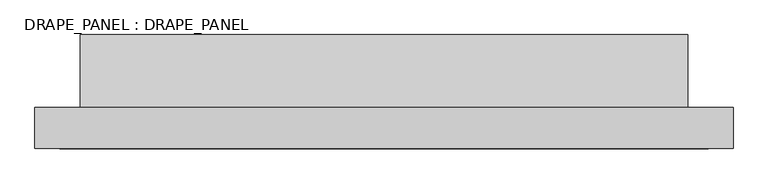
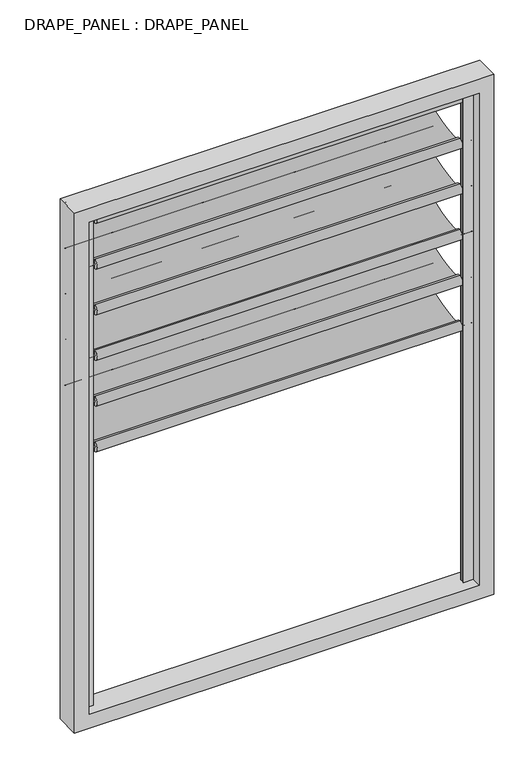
"""IFC4 building model written with IfcOpenShell, lengths in millimetres: plate geometry, DRAPE_PANEL : DRAPE_PANEL."""

from ifc_helpers import new_model, si_unit, point, frame, origin, place, context, project, spatial, polyline, circle_curve, ellipse_curve, trimmed, outline, extrude, source, transform, mapped, element, save
from ifc_brep_helpers import plane_surface, cylinder_surface, extruded_surface, advanced_brep


def drape_panel_drape_panel_54859ce1(model_context):
    return source(origin(), model_context, "Body", "SolidModel", [
        advanced_brep(
        [(-790.0, 0.0, 1551.5019792), (-790.0, 0.0, 1556.5019792), (-790.0, 0.0, 1546.5019792), (790.0, 0.0, 1546.5019792), (790.0, 0.0, 1556.5019792), (790.0, 0.0, 1551.5019792), (740.0, 0.0, 1546.5019792), (740.0, 0.0, 1556.5019792), (740.0, 0.0, 1531.5019792), (740.0, 0.0, 1571.5019792), (-740.0, 0.0, 1531.5019792), (-740.0, 0.0, 1571.5019792), (-740.0, 0.0, 1546.5019792), (-740.0, 0.0, 1556.5019792)],
        [
            (0, 1),
            (1, 2, circle_curve(frame((-790.0, 0.0, 1551.5019792), z_axis=(-1.0, 0.0, 0.0), x_axis=(0.0, 0.0, 1.0)), 5.0)),
            (2, 0),
            (2, 1, circle_curve(frame((-790.0, 0.0, 1551.5019792), z_axis=(-1.0, 0.0, 0.0), x_axis=(0.0, 0.0, 1.0)), 5.0)),
            (3, 4, circle_curve(frame((790.0, 0.0, 1551.5019792), z_axis=(1.0, 0.0, 0.0), x_axis=(0.0, 0.0, 1.0)), 5.0)),
            (4, 5),
            (5, 3),
            (4, 3, circle_curve(frame((790.0, 0.0, 1551.5019792), z_axis=(1.0, 0.0, 0.0), x_axis=(0.0, 0.0, 1.0)), 5.0)),
            (6, 7, circle_curve(frame((740.0, 0.0, 1551.5019792), z_axis=(1.0, 0.0, 0.0), x_axis=(0.0, 0.0, 1.0)), 5.0)),
            (7, 4),
            (3, 6),
            (7, 6, circle_curve(frame((740.0, 0.0, 1551.5019792), z_axis=(1.0, 0.0, 0.0), x_axis=(0.0, 0.0, 1.0)), 5.0)),
            (8, 9, circle_curve(frame((740.0, 0.0, 1551.5019792), z_axis=(1.0, 0.0, 0.0), x_axis=(0.0, 0.0, 1.0)), 20.0)),
            (9, 7),
            (6, 8),
            (9, 8, circle_curve(frame((740.0, 0.0, 1551.5019792), z_axis=(1.0, 0.0, 0.0), x_axis=(0.0, 0.0, 1.0)), 20.0)),
            (10, 11, circle_curve(frame((-740.0, 0.0, 1551.5019792), z_axis=(1.0, 0.0, 0.0), x_axis=(0.0, 0.0, 1.0)), 20.0)),
            (11, 9),
            (8, 10),
            (11, 10, circle_curve(frame((-740.0, 0.0, 1551.5019792), z_axis=(1.0, 0.0, 0.0), x_axis=(0.0, 0.0, 1.0)), 20.0)),
            (12, 13, circle_curve(frame((-740.0, 0.0, 1551.5019792), z_axis=(1.0, 0.0, 0.0), x_axis=(0.0, 0.0, 1.0)), 5.0)),
            (13, 11),
            (10, 12),
            (13, 12, circle_curve(frame((-740.0, 0.0, 1551.5019792), z_axis=(1.0, 0.0, 0.0), x_axis=(0.0, 0.0, 1.0)), 5.0)),
            (1, 13),
            (12, 2),
        ],
        [
            plane_surface(frame((-790.0, 0.0, 1551.5019792), z_axis=(-1.0, 0.0, 0.0), x_axis=(0.0, 0.0, 1.0))),
            plane_surface(frame((790.0, 0.0, 1551.5019792), z_axis=(1.0, 0.0, 0.0), x_axis=(0.0, 0.0, 1.0))),
            cylinder_surface(frame((6238.8752301, 0.0, 1551.5019792), z_axis=(-1.0, 0.0, 0.0), x_axis=(0.0, 0.0, 1.0)), 5.0),
            plane_surface(frame((740.0, 0.0, 1551.5019792), z_axis=(1.0, 0.0, 0.0), x_axis=(0.0, 0.0, 1.0))),
            cylinder_surface(frame((6238.8752301, 0.0, 1551.5019792), z_axis=(-1.0, 0.0, 0.0), x_axis=(0.0, 0.0, 1.0)), 20.0),
            plane_surface(frame((-740.0, 0.0, 1551.5019792), z_axis=(-1.0, 0.0, 0.0), x_axis=(0.0, 0.0, 1.0))),
        ],
        [
            (0, [[1, 2, 3]]),
            (0, [[-3, 4, -1]]),
            (1, [[5, 6, 7]]),
            (1, [[8, -7, -6]]),
            (2, [[9, 10, -5, 11]]),
            (2, [[12, -11, -8, -10]]),
            (3, [[13, 14, -9, 15]]),
            (3, [[16, -15, -12, -14]]),
            (4, [[17, 18, -13, 19]]),
            (4, [[20, -19, -16, -18]]),
            (5, [[21, 22, -17, 23]]),
            (5, [[24, -23, -20, -22]]),
            (2, [[-2, 25, -21, 26]]),
            (2, [[-4, -26, -24, -25]]),
        ],
    ),
        advanced_brep(
        [(740.0, 0.0, 1551.5019792), (740.0, 0.0, 1548.5019792), (740.0, 0.0, 1358.7509896), (740.0, 0.0, 1355.7509896), (-740.0, 0.0, 1551.5019792), (-740.0, 0.0, 1355.7509896), (-740.0, 0.0, 1358.7509896), (-740.0, 0.0, 1548.5019792)],
        [
            (0, 1),
            (1, 2, ellipse_curve(frame((740.0, 0.0, 1453.6264844), z_axis=(-1.0, 0.0, 0.0), x_axis=(0.0, -1.0, 0.0)), 224.6534293, 94.8754948)),
            (2, 3),
            (3, 0, ellipse_curve(frame((740.0, 0.0, 1453.6264844), z_axis=(1.0, 0.0, 0.0), x_axis=(0.0, 1.0, 0.0)), 227.6534293, 97.8754948)),
            (4, 5, ellipse_curve(frame((-740.0, 0.0, 1453.6264844), z_axis=(-1.0, 0.0, 0.0), x_axis=(0.0, 0.0, -1.0)), 97.8754948, 227.6534293)),
            (5, 6),
            (6, 7, ellipse_curve(frame((-740.0, 0.0, 1453.6264844), z_axis=(1.0, 0.0, 0.0), x_axis=(0.0, 0.0, -1.0)), 94.8754948, 224.6534293)),
            (7, 4),
            (0, 4),
            (7, 1),
            (6, 2),
            (5, 3),
        ],
        [
            plane_surface(frame((740.0, 0.0, 1551.5019792), z_axis=(1.0, 0.0, 0.0), x_axis=(0.0, -1.769368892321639e-12, -1.0))),
            plane_surface(frame((-740.0, 0.0, 1551.5019792), z_axis=(-1.0, 0.0, 0.0), x_axis=(0.0, 1.769368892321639e-12, 1.0))),
            plane_surface(frame((740.0, 0.0, 1551.5019792), z_axis=(0.0, -1.0, 1.769368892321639e-12), x_axis=(-1.0, 0.0, 0.0))),
            extruded_surface(trimmed(ellipse_curve(frame((-2220.0, 0.0, 1453.6264844), z_axis=(-1.0, 0.0, 0.0), x_axis=(0.0, 0.0, -1.0)), 94.8754948, 224.6534293), [point((-2220.0, 0.0, 1548.5019792))], [point((-2220.0, 0.0, 1358.7509896))], True, "CARTESIAN"), (1480.0, 0.0, 0.0), 1480.0),
            plane_surface(frame((740.0, 0.0, 1358.7509896), z_axis=(0.0, -1.0, 0.0), x_axis=(-1.0, 0.0, 0.0))),
            extruded_surface(trimmed(ellipse_curve(frame((-2220.0, 0.0, 1453.6264844), z_axis=(1.0, 0.0, 0.0), x_axis=(0.0, 0.0, -1.0)), 97.8754948, 227.6534293), [point((-2220.0, 0.0, 1355.7509896))], [point((-2220.0, 0.0, 1551.5019792))], True, "CARTESIAN"), (1480.0, 0.0, 0.0), 1480.0),
        ],
        [
            (0, [[1, 2, 3, 4]]),
            (1, [[5, 6, 7, 8]]),
            (2, [[-1, 9, -8, 10]]),
            (3, [[-2, -10, -7, 11]]),
            (4, [[-3, -11, -6, 12]]),
            (5, [[-4, -12, -5, -9]]),
        ],
    ),
        advanced_brep(
        [(-790.0, 0.0, 1747.2529688), (-790.0, 0.0, 1752.2529688), (-790.0, 0.0, 1742.2529688), (790.0, 0.0, 1742.2529688), (790.0, 0.0, 1752.2529688), (790.0, 0.0, 1747.2529688), (740.0, 0.0, 1742.2529688), (740.0, 0.0, 1752.2529688), (740.0, 0.0, 1727.2529688), (740.0, 0.0, 1767.2529688), (-740.0, 0.0, 1727.2529688), (-740.0, 0.0, 1767.2529688), (-740.0, 0.0, 1742.2529688), (-740.0, 0.0, 1752.2529688)],
        [
            (0, 1),
            (1, 2, circle_curve(frame((-790.0, 0.0, 1747.2529688), z_axis=(-1.0, 0.0, 0.0), x_axis=(0.0, 0.0, 1.0)), 5.0)),
            (2, 0),
            (2, 1, circle_curve(frame((-790.0, 0.0, 1747.2529688), z_axis=(-1.0, 0.0, 0.0), x_axis=(0.0, 0.0, 1.0)), 5.0)),
            (3, 4, circle_curve(frame((790.0, 0.0, 1747.2529688), z_axis=(1.0, 0.0, 0.0), x_axis=(0.0, 0.0, 1.0)), 5.0)),
            (4, 5),
            (5, 3),
            (4, 3, circle_curve(frame((790.0, 0.0, 1747.2529688), z_axis=(1.0, 0.0, 0.0), x_axis=(0.0, 0.0, 1.0)), 5.0)),
            (6, 7, circle_curve(frame((740.0, 0.0, 1747.2529688), z_axis=(1.0, 0.0, 0.0), x_axis=(0.0, 0.0, 1.0)), 5.0)),
            (7, 4),
            (3, 6),
            (7, 6, circle_curve(frame((740.0, 0.0, 1747.2529688), z_axis=(1.0, 0.0, 0.0), x_axis=(0.0, 0.0, 1.0)), 5.0)),
            (8, 9, circle_curve(frame((740.0, 0.0, 1747.2529688), z_axis=(1.0, 0.0, 0.0), x_axis=(0.0, 0.0, 1.0)), 20.0)),
            (9, 7),
            (6, 8),
            (9, 8, circle_curve(frame((740.0, 0.0, 1747.2529688), z_axis=(1.0, 0.0, 0.0), x_axis=(0.0, 0.0, 1.0)), 20.0)),
            (10, 11, circle_curve(frame((-740.0, 0.0, 1747.2529688), z_axis=(1.0, 0.0, 0.0), x_axis=(0.0, 0.0, 1.0)), 20.0)),
            (11, 9),
            (8, 10),
            (11, 10, circle_curve(frame((-740.0, 0.0, 1747.2529688), z_axis=(1.0, 0.0, 0.0), x_axis=(0.0, 0.0, 1.0)), 20.0)),
            (12, 13, circle_curve(frame((-740.0, 0.0, 1747.2529688), z_axis=(1.0, 0.0, 0.0), x_axis=(0.0, 0.0, 1.0)), 5.0)),
            (13, 11),
            (10, 12),
            (13, 12, circle_curve(frame((-740.0, 0.0, 1747.2529688), z_axis=(1.0, 0.0, 0.0), x_axis=(0.0, 0.0, 1.0)), 5.0)),
            (1, 13),
            (12, 2),
        ],
        [
            plane_surface(frame((-790.0, 0.0, 1747.2529688), z_axis=(-1.0, 0.0, 0.0), x_axis=(0.0, 0.0, 1.0))),
            plane_surface(frame((790.0, 0.0, 1747.2529688), z_axis=(1.0, 0.0, 0.0), x_axis=(0.0, 0.0, 1.0))),
            cylinder_surface(frame((6238.8752301, 0.0, 1747.2529688), z_axis=(-1.0, 0.0, 0.0), x_axis=(0.0, 0.0, 1.0)), 5.0),
            plane_surface(frame((740.0, 0.0, 1747.2529688), z_axis=(1.0, 0.0, 0.0), x_axis=(0.0, 0.0, 1.0))),
            cylinder_surface(frame((6238.8752301, 0.0, 1747.2529688), z_axis=(-1.0, 0.0, 0.0), x_axis=(0.0, 0.0, 1.0)), 20.0),
            plane_surface(frame((-740.0, 0.0, 1747.2529688), z_axis=(-1.0, 0.0, 0.0), x_axis=(0.0, 0.0, 1.0))),
        ],
        [
            (0, [[1, 2, 3]]),
            (0, [[-3, 4, -1]]),
            (1, [[5, 6, 7]]),
            (1, [[8, -7, -6]]),
            (2, [[9, 10, -5, 11]]),
            (2, [[12, -11, -8, -10]]),
            (3, [[13, 14, -9, 15]]),
            (3, [[16, -15, -12, -14]]),
            (4, [[17, 18, -13, 19]]),
            (4, [[20, -19, -16, -18]]),
            (5, [[21, 22, -17, 23]]),
            (5, [[24, -23, -20, -22]]),
            (2, [[-2, 25, -21, 26]]),
            (2, [[-4, -26, -24, -25]]),
        ],
    ),
        advanced_brep(
        [(740.0, 0.0, 1747.2529688), (740.0, 0.0, 1744.2529688), (740.0, 0.0, 1554.5019792), (740.0, 0.0, 1551.5019792), (-740.0, 0.0, 1747.2529688), (-740.0, 0.0, 1551.5019792), (-740.0, 0.0, 1554.5019792), (-740.0, 0.0, 1744.2529688)],
        [
            (0, 1),
            (1, 2, ellipse_curve(frame((740.0, 0.0, 1649.377474), z_axis=(-1.0, 0.0, 0.0), x_axis=(0.0, -1.0, 0.0)), 224.6534293, 94.8754948)),
            (2, 3),
            (3, 0, ellipse_curve(frame((740.0, 0.0, 1649.377474), z_axis=(1.0, 0.0, 0.0), x_axis=(0.0, 1.0, 0.0)), 227.6534293, 97.8754948)),
            (4, 5, ellipse_curve(frame((-740.0, 0.0, 1649.377474), z_axis=(-1.0, 0.0, 0.0), x_axis=(0.0, 0.0, -1.0)), 97.8754948, 227.6534293)),
            (5, 6),
            (6, 7, ellipse_curve(frame((-740.0, 0.0, 1649.377474), z_axis=(1.0, 0.0, 0.0), x_axis=(0.0, 0.0, -1.0)), 94.8754948, 224.6534293)),
            (7, 4),
            (0, 4),
            (7, 1),
            (6, 2),
            (5, 3),
        ],
        [
            plane_surface(frame((740.0, 0.0, 1747.2529688), z_axis=(1.0, 0.0, 0.0), x_axis=(0.0, -1.769368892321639e-12, -1.0))),
            plane_surface(frame((-740.0, 0.0, 1747.2529688), z_axis=(-1.0, 0.0, 0.0), x_axis=(0.0, 1.769368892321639e-12, 1.0))),
            plane_surface(frame((740.0, 0.0, 1747.2529688), z_axis=(0.0, -1.0, 1.769368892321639e-12), x_axis=(-1.0, 0.0, 0.0))),
            extruded_surface(trimmed(ellipse_curve(frame((-2220.0, 0.0, 1649.377474), z_axis=(-1.0, 0.0, 0.0), x_axis=(0.0, 0.0, -1.0)), 94.8754948, 224.6534293), [point((-2220.0, 0.0, 1744.2529688))], [point((-2220.0, 0.0, 1554.5019792))], True, "CARTESIAN"), (1480.0, 0.0, 0.0), 1480.0),
            plane_surface(frame((740.0, 0.0, 1554.5019792), z_axis=(0.0, -1.0, 0.0), x_axis=(-1.0, 0.0, 0.0))),
            extruded_surface(trimmed(ellipse_curve(frame((-2220.0, 0.0, 1649.377474), z_axis=(1.0, 0.0, 0.0), x_axis=(0.0, 0.0, -1.0)), 97.8754948, 227.6534293), [point((-2220.0, 0.0, 1551.5019792))], [point((-2220.0, 0.0, 1747.2529688))], True, "CARTESIAN"), (1480.0, 0.0, 0.0), 1480.0),
        ],
        [
            (0, [[1, 2, 3, 4]]),
            (1, [[5, 6, 7, 8]]),
            (2, [[-1, 9, -8, 10]]),
            (3, [[-2, -10, -7, 11]]),
            (4, [[-3, -11, -6, 12]]),
            (5, [[-4, -12, -5, -9]]),
        ],
    ),
        advanced_brep(
        [(-790.0, 0.0, 1943.0039583), (-790.0, 0.0, 1948.0039583), (-790.0, 0.0, 1938.0039583), (790.0, 0.0, 1938.0039583), (790.0, 0.0, 1948.0039583), (790.0, 0.0, 1943.0039583), (740.0, 0.0, 1938.0039583), (740.0, 0.0, 1948.0039583), (740.0, 0.0, 1923.0039583), (740.0, 0.0, 1963.0039583), (-740.0, 0.0, 1923.0039583), (-740.0, 0.0, 1963.0039583), (-740.0, 0.0, 1938.0039583), (-740.0, 0.0, 1948.0039583)],
        [
            (0, 1),
            (1, 2, circle_curve(frame((-790.0, 0.0, 1943.0039583), z_axis=(-1.0, 0.0, 0.0), x_axis=(0.0, 0.0, 1.0)), 5.0)),
            (2, 0),
            (2, 1, circle_curve(frame((-790.0, 0.0, 1943.0039583), z_axis=(-1.0, 0.0, 0.0), x_axis=(0.0, 0.0, 1.0)), 5.0)),
            (3, 4, circle_curve(frame((790.0, 0.0, 1943.0039583), z_axis=(1.0, 0.0, 0.0), x_axis=(0.0, 0.0, 1.0)), 5.0)),
            (4, 5),
            (5, 3),
            (4, 3, circle_curve(frame((790.0, 0.0, 1943.0039583), z_axis=(1.0, 0.0, 0.0), x_axis=(0.0, 0.0, 1.0)), 5.0)),
            (6, 7, circle_curve(frame((740.0, 0.0, 1943.0039583), z_axis=(1.0, 0.0, 0.0), x_axis=(0.0, 0.0, 1.0)), 5.0)),
            (7, 4),
            (3, 6),
            (7, 6, circle_curve(frame((740.0, 0.0, 1943.0039583), z_axis=(1.0, 0.0, 0.0), x_axis=(0.0, 0.0, 1.0)), 5.0)),
            (8, 9, circle_curve(frame((740.0, 0.0, 1943.0039583), z_axis=(1.0, 0.0, 0.0), x_axis=(0.0, 0.0, 1.0)), 20.0)),
            (9, 7),
            (6, 8),
            (9, 8, circle_curve(frame((740.0, 0.0, 1943.0039583), z_axis=(1.0, 0.0, 0.0), x_axis=(0.0, 0.0, 1.0)), 20.0)),
            (10, 11, circle_curve(frame((-740.0, 0.0, 1943.0039583), z_axis=(1.0, 0.0, 0.0), x_axis=(0.0, 0.0, 1.0)), 20.0)),
            (11, 9),
            (8, 10),
            (11, 10, circle_curve(frame((-740.0, 0.0, 1943.0039583), z_axis=(1.0, 0.0, 0.0), x_axis=(0.0, 0.0, 1.0)), 20.0)),
            (12, 13, circle_curve(frame((-740.0, 0.0, 1943.0039583), z_axis=(1.0, 0.0, 0.0), x_axis=(0.0, 0.0, 1.0)), 5.0)),
            (13, 11),
            (10, 12),
            (13, 12, circle_curve(frame((-740.0, 0.0, 1943.0039583), z_axis=(1.0, 0.0, 0.0), x_axis=(0.0, 0.0, 1.0)), 5.0)),
            (1, 13),
            (12, 2),
        ],
        [
            plane_surface(frame((-790.0, 0.0, 1943.0039583), z_axis=(-1.0, 0.0, 0.0), x_axis=(0.0, 0.0, 1.0))),
            plane_surface(frame((790.0, 0.0, 1943.0039583), z_axis=(1.0, 0.0, 0.0), x_axis=(0.0, 0.0, 1.0))),
            cylinder_surface(frame((6238.8752301, 0.0, 1943.0039583), z_axis=(-1.0, 0.0, 0.0), x_axis=(0.0, 0.0, 1.0)), 5.0),
            plane_surface(frame((740.0, 0.0, 1943.0039583), z_axis=(1.0, 0.0, 0.0), x_axis=(0.0, 0.0, 1.0))),
            cylinder_surface(frame((6238.8752301, 0.0, 1943.0039583), z_axis=(-1.0, 0.0, 0.0), x_axis=(0.0, 0.0, 1.0)), 20.0),
            plane_surface(frame((-740.0, 0.0, 1943.0039583), z_axis=(-1.0, 0.0, 0.0), x_axis=(0.0, 0.0, 1.0))),
        ],
        [
            (0, [[1, 2, 3]]),
            (0, [[-3, 4, -1]]),
            (1, [[5, 6, 7]]),
            (1, [[8, -7, -6]]),
            (2, [[9, 10, -5, 11]]),
            (2, [[12, -11, -8, -10]]),
            (3, [[13, 14, -9, 15]]),
            (3, [[16, -15, -12, -14]]),
            (4, [[17, 18, -13, 19]]),
            (4, [[20, -19, -16, -18]]),
            (5, [[21, 22, -17, 23]]),
            (5, [[24, -23, -20, -22]]),
            (2, [[-2, 25, -21, 26]]),
            (2, [[-4, -26, -24, -25]]),
        ],
    ),
        advanced_brep(
        [(740.0, 0.0, 1943.0039583), (740.0, 0.0, 1940.0039583), (740.0, 0.0, 1750.2529688), (740.0, 0.0, 1747.2529688), (-740.0, 0.0, 1943.0039583), (-740.0, 0.0, 1747.2529688), (-740.0, 0.0, 1750.2529688), (-740.0, 0.0, 1940.0039583)],
        [
            (0, 1),
            (1, 2, ellipse_curve(frame((740.0, 0.0, 1845.1284635), z_axis=(-1.0, 0.0, 0.0), x_axis=(0.0, -1.0, 0.0)), 224.6534293, 94.8754948)),
            (2, 3),
            (3, 0, ellipse_curve(frame((740.0, 0.0, 1845.1284635), z_axis=(1.0, 0.0, 0.0), x_axis=(0.0, 1.0, 0.0)), 227.6534293, 97.8754948)),
            (4, 5, ellipse_curve(frame((-740.0, 0.0, 1845.1284635), z_axis=(-1.0, 0.0, 0.0), x_axis=(0.0, 0.0, -1.0)), 97.8754948, 227.6534293)),
            (5, 6),
            (6, 7, ellipse_curve(frame((-740.0, 0.0, 1845.1284635), z_axis=(1.0, 0.0, 0.0), x_axis=(0.0, 0.0, -1.0)), 94.8754948, 224.6534293)),
            (7, 4),
            (0, 4),
            (7, 1),
            (6, 2),
            (5, 3),
        ],
        [
            plane_surface(frame((740.0, 0.0, 1943.0039583), z_axis=(1.0, 0.0, 0.0), x_axis=(0.0, -1.769368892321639e-12, -1.0))),
            plane_surface(frame((-740.0, 0.0, 1943.0039583), z_axis=(-1.0, 0.0, 0.0), x_axis=(0.0, 1.769368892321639e-12, 1.0))),
            plane_surface(frame((740.0, 0.0, 1943.0039583), z_axis=(0.0, -1.0, 1.769368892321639e-12), x_axis=(-1.0, 0.0, 0.0))),
            extruded_surface(trimmed(ellipse_curve(frame((-2220.0, 0.0, 1845.1284635), z_axis=(-1.0, 0.0, 0.0), x_axis=(0.0, 0.0, -1.0)), 94.8754948, 224.6534293), [point((-2220.0, 0.0, 1940.0039583))], [point((-2220.0, 0.0, 1750.2529687))], True, "CARTESIAN"), (1480.0, 0.0, 0.0), 1480.0),
            plane_surface(frame((740.0, 0.0, 1750.2529688), z_axis=(0.0, -1.0, 0.0), x_axis=(-1.0, 0.0, 0.0))),
            extruded_surface(trimmed(ellipse_curve(frame((-2220.0, 0.0, 1845.1284635), z_axis=(1.0, 0.0, 0.0), x_axis=(0.0, 0.0, -1.0)), 97.8754948, 227.6534293), [point((-2220.0, 0.0, 1747.2529688))], [point((-2220.0, 0.0, 1943.0039583))], True, "CARTESIAN"), (1480.0, 0.0, 0.0), 1480.0),
        ],
        [
            (0, [[1, 2, 3, 4]]),
            (1, [[5, 6, 7, 8]]),
            (2, [[-1, 9, -8, 10]]),
            (3, [[-2, -10, -7, 11]]),
            (4, [[-3, -11, -6, 12]]),
            (5, [[-4, -12, -5, -9]]),
        ],
    ),
        advanced_brep(
        [(-790.0, 0.0, 1355.7509896), (-790.0, 0.0, 1360.7509896), (-790.0, 0.0, 1350.7509896), (790.0, 0.0, 1350.7509896), (790.0, 0.0, 1360.7509896), (790.0, 0.0, 1355.7509896), (740.0, 0.0, 1350.7509896), (740.0, 0.0, 1360.7509896), (740.0, 0.0, 1335.7509896), (740.0, 0.0, 1375.7509896), (-740.0, 0.0, 1335.7509896), (-740.0, 0.0, 1375.7509896), (-740.0, 0.0, 1350.7509896), (-740.0, 0.0, 1360.7509896)],
        [
            (0, 1),
            (1, 2, circle_curve(frame((-790.0, 0.0, 1355.7509896), z_axis=(-1.0, 0.0, 0.0), x_axis=(0.0, 0.0, 1.0)), 5.0)),
            (2, 0),
            (2, 1, circle_curve(frame((-790.0, 0.0, 1355.7509896), z_axis=(-1.0, 0.0, 0.0), x_axis=(0.0, 0.0, 1.0)), 5.0)),
            (3, 4, circle_curve(frame((790.0, 0.0, 1355.7509896), z_axis=(1.0, 0.0, 0.0), x_axis=(0.0, 0.0, 1.0)), 5.0)),
            (4, 5),
            (5, 3),
            (4, 3, circle_curve(frame((790.0, 0.0, 1355.7509896), z_axis=(1.0, 0.0, 0.0), x_axis=(0.0, 0.0, 1.0)), 5.0)),
            (6, 7, circle_curve(frame((740.0, 0.0, 1355.7509896), z_axis=(1.0, 0.0, 0.0), x_axis=(0.0, 0.0, 1.0)), 5.0)),
            (7, 4),
            (3, 6),
            (7, 6, circle_curve(frame((740.0, 0.0, 1355.7509896), z_axis=(1.0, 0.0, 0.0), x_axis=(0.0, 0.0, 1.0)), 5.0)),
            (8, 9, circle_curve(frame((740.0, 0.0, 1355.7509896), z_axis=(1.0, 0.0, 0.0), x_axis=(0.0, 0.0, 1.0)), 20.0)),
            (9, 7),
            (6, 8),
            (9, 8, circle_curve(frame((740.0, 0.0, 1355.7509896), z_axis=(1.0, 0.0, 0.0), x_axis=(0.0, 0.0, 1.0)), 20.0)),
            (10, 11, circle_curve(frame((-740.0, 0.0, 1355.7509896), z_axis=(1.0, 0.0, 0.0), x_axis=(0.0, 0.0, 1.0)), 20.0)),
            (11, 9),
            (8, 10),
            (11, 10, circle_curve(frame((-740.0, 0.0, 1355.7509896), z_axis=(1.0, 0.0, 0.0), x_axis=(0.0, 0.0, 1.0)), 20.0)),
            (12, 13, circle_curve(frame((-740.0, 0.0, 1355.7509896), z_axis=(1.0, 0.0, 0.0), x_axis=(0.0, 0.0, 1.0)), 5.0)),
            (13, 11),
            (10, 12),
            (13, 12, circle_curve(frame((-740.0, 0.0, 1355.7509896), z_axis=(1.0, 0.0, 0.0), x_axis=(0.0, 0.0, 1.0)), 5.0)),
            (1, 13),
            (12, 2),
        ],
        [
            plane_surface(frame((-790.0, 0.0, 1355.7509896), z_axis=(-1.0, 0.0, 0.0), x_axis=(0.0, 0.0, 1.0))),
            plane_surface(frame((790.0, 0.0, 1355.7509896), z_axis=(1.0, 0.0, 0.0), x_axis=(0.0, 0.0, 1.0))),
            cylinder_surface(frame((6238.8752301, 0.0, 1355.7509896), z_axis=(-1.0, 0.0, 0.0), x_axis=(0.0, 0.0, 1.0)), 5.0),
            plane_surface(frame((740.0, 0.0, 1355.7509896), z_axis=(1.0, 0.0, 0.0), x_axis=(0.0, 0.0, 1.0))),
            cylinder_surface(frame((6238.8752301, 0.0, 1355.7509896), z_axis=(-1.0, 0.0, 0.0), x_axis=(0.0, 0.0, 1.0)), 20.0),
            plane_surface(frame((-740.0, 0.0, 1355.7509896), z_axis=(-1.0, 0.0, 0.0), x_axis=(0.0, 0.0, 1.0))),
        ],
        [
            (0, [[1, 2, 3]]),
            (0, [[-3, 4, -1]]),
            (1, [[5, 6, 7]]),
            (1, [[8, -7, -6]]),
            (2, [[9, 10, -5, 11]]),
            (2, [[12, -11, -8, -10]]),
            (3, [[13, 14, -9, 15]]),
            (3, [[16, -15, -12, -14]]),
            (4, [[17, 18, -13, 19]]),
            (4, [[20, -19, -16, -18]]),
            (5, [[21, 22, -17, 23]]),
            (5, [[24, -23, -20, -22]]),
            (2, [[-2, 25, -21, 26]]),
            (2, [[-4, -26, -24, -25]]),
        ],
    ),
        advanced_brep(
        [(740.0, 0.0, 1355.7509896), (740.0, 0.0, 1352.7509896), (740.0, 0.0, 1163.0), (740.0, 0.0, 1160.0), (-740.0, 0.0, 1355.7509896), (-740.0, 0.0, 1160.0), (-740.0, 0.0, 1163.0), (-740.0, 0.0, 1352.7509896)],
        [
            (0, 1),
            (1, 2, ellipse_curve(frame((740.0, 0.0, 1257.8754948), z_axis=(-1.0, 0.0, 0.0), x_axis=(0.0, -1.0, 0.0)), 224.6534293, 94.8754948)),
            (2, 3),
            (3, 0, ellipse_curve(frame((740.0, 0.0, 1257.8754948), z_axis=(1.0, 0.0, 0.0), x_axis=(0.0, 1.0, 0.0)), 227.6534293, 97.8754948)),
            (4, 5, ellipse_curve(frame((-740.0, 0.0, 1257.8754948), z_axis=(-1.0, 0.0, 0.0), x_axis=(0.0, 0.0, -1.0)), 97.8754948, 227.6534293)),
            (5, 6),
            (6, 7, ellipse_curve(frame((-740.0, 0.0, 1257.8754948), z_axis=(1.0, 0.0, 0.0), x_axis=(0.0, 0.0, -1.0)), 94.8754948, 224.6534293)),
            (7, 4),
            (0, 4),
            (7, 1),
            (6, 2),
            (5, 3),
        ],
        [
            plane_surface(frame((740.0, 0.0, 1355.7509896), z_axis=(1.0, 0.0, 0.0), x_axis=(0.0, -1.769368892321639e-12, -1.0))),
            plane_surface(frame((-740.0, 0.0, 1355.7509896), z_axis=(-1.0, 0.0, 0.0), x_axis=(0.0, 1.769368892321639e-12, 1.0))),
            plane_surface(frame((740.0, 0.0, 1355.7509896), z_axis=(0.0, -1.0, 1.769368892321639e-12), x_axis=(-1.0, 0.0, 0.0))),
            extruded_surface(trimmed(ellipse_curve(frame((-2220.0, 0.0, 1257.8754948), z_axis=(-1.0, 0.0, 0.0), x_axis=(0.0, 0.0, -1.0)), 94.8754948, 224.6534293), [point((-2220.0, 0.0, 1352.7509896))], [point((-2220.0, 0.0, 1163.0))], True, "CARTESIAN"), (1480.0, 0.0, 0.0), 1480.0),
            plane_surface(frame((740.0, 0.0, 1163.0), z_axis=(0.0, -1.0, 0.0), x_axis=(-1.0, 0.0, 0.0))),
            extruded_surface(trimmed(ellipse_curve(frame((-2220.0, 0.0, 1257.8754948), z_axis=(1.0, 0.0, 0.0), x_axis=(0.0, 0.0, -1.0)), 97.8754948, 227.6534293), [point((-2220.0, 0.0, 1160.0))], [point((-2220.0, 0.0, 1355.7509896))], True, "CARTESIAN"), (1480.0, 0.0, 0.0), 1480.0),
        ],
        [
            (0, [[1, 2, 3, 4]]),
            (1, [[5, 6, 7, 8]]),
            (2, [[-1, 9, -8, 10]]),
            (3, [[-2, -10, -7, 11]]),
            (4, [[-3, -11, -6, 12]]),
            (5, [[-4, -12, -5, -9]]),
        ],
    ),
        advanced_brep(
        [(-790.0, 0.0, 2138.7549479), (-790.0, 0.0, 2143.7549479), (-790.0, 0.0, 2133.7549479), (790.0, 0.0, 2133.7549479), (790.0, 0.0, 2143.7549479), (790.0, 0.0, 2138.7549479), (740.0, 0.0, 2133.7549479), (740.0, 0.0, 2143.7549479), (740.0, 0.0, 2118.7549479), (740.0, 0.0, 2158.7549479), (-740.0, 0.0, 2118.7549479), (-740.0, 0.0, 2158.7549479), (-740.0, 0.0, 2133.7549479), (-740.0, 0.0, 2143.7549479)],
        [
            (0, 1),
            (1, 2, circle_curve(frame((-790.0, 0.0, 2138.7549479), z_axis=(-1.0, 0.0, 0.0), x_axis=(0.0, 0.0, 1.0)), 5.0)),
            (2, 0),
            (2, 1, circle_curve(frame((-790.0, 0.0, 2138.7549479), z_axis=(-1.0, 0.0, 0.0), x_axis=(0.0, 0.0, 1.0)), 5.0)),
            (3, 4, circle_curve(frame((790.0, 0.0, 2138.7549479), z_axis=(1.0, 0.0, 0.0), x_axis=(0.0, 0.0, 1.0)), 5.0)),
            (4, 5),
            (5, 3),
            (4, 3, circle_curve(frame((790.0, 0.0, 2138.7549479), z_axis=(1.0, 0.0, 0.0), x_axis=(0.0, 0.0, 1.0)), 5.0)),
            (6, 7, circle_curve(frame((740.0, 0.0, 2138.7549479), z_axis=(1.0, 0.0, 0.0), x_axis=(0.0, 0.0, 1.0)), 5.0)),
            (7, 4),
            (3, 6),
            (7, 6, circle_curve(frame((740.0, 0.0, 2138.7549479), z_axis=(1.0, 0.0, 0.0), x_axis=(0.0, 0.0, 1.0)), 5.0)),
            (8, 9, circle_curve(frame((740.0, 0.0, 2138.7549479), z_axis=(1.0, 0.0, 0.0), x_axis=(0.0, 0.0, 1.0)), 20.0)),
            (9, 7),
            (6, 8),
            (9, 8, circle_curve(frame((740.0, 0.0, 2138.7549479), z_axis=(1.0, 0.0, 0.0), x_axis=(0.0, 0.0, 1.0)), 20.0)),
            (10, 11, circle_curve(frame((-740.0, 0.0, 2138.7549479), z_axis=(1.0, 0.0, 0.0), x_axis=(0.0, 0.0, 1.0)), 20.0)),
            (11, 9),
            (8, 10),
            (11, 10, circle_curve(frame((-740.0, 0.0, 2138.7549479), z_axis=(1.0, 0.0, 0.0), x_axis=(0.0, 0.0, 1.0)), 20.0)),
            (12, 13, circle_curve(frame((-740.0, 0.0, 2138.7549479), z_axis=(1.0, 0.0, 0.0), x_axis=(0.0, 0.0, 1.0)), 5.0)),
            (13, 11),
            (10, 12),
            (13, 12, circle_curve(frame((-740.0, 0.0, 2138.7549479), z_axis=(1.0, 0.0, 0.0), x_axis=(0.0, 0.0, 1.0)), 5.0)),
            (1, 13),
            (12, 2),
        ],
        [
            plane_surface(frame((-790.0, 0.0, 2138.7549479), z_axis=(-1.0, 0.0, 0.0), x_axis=(0.0, 0.0, 1.0))),
            plane_surface(frame((790.0, 0.0, 2138.7549479), z_axis=(1.0, 0.0, 0.0), x_axis=(0.0, 0.0, 1.0))),
            cylinder_surface(frame((6238.8752301, 0.0, 2138.7549479), z_axis=(-1.0, 0.0, 0.0), x_axis=(0.0, 0.0, 1.0)), 5.0),
            plane_surface(frame((740.0, 0.0, 2138.7549479), z_axis=(1.0, 0.0, 0.0), x_axis=(0.0, 0.0, 1.0))),
            cylinder_surface(frame((6238.8752301, 0.0, 2138.7549479), z_axis=(-1.0, 0.0, 0.0), x_axis=(0.0, 0.0, 1.0)), 20.0),
            plane_surface(frame((-740.0, 0.0, 2138.7549479), z_axis=(-1.0, 0.0, 0.0), x_axis=(0.0, 0.0, 1.0))),
        ],
        [
            (0, [[1, 2, 3]]),
            (0, [[-3, 4, -1]]),
            (1, [[5, 6, 7]]),
            (1, [[8, -7, -6]]),
            (2, [[9, 10, -5, 11]]),
            (2, [[12, -11, -8, -10]]),
            (3, [[13, 14, -9, 15]]),
            (3, [[16, -15, -12, -14]]),
            (4, [[17, 18, -13, 19]]),
            (4, [[20, -19, -16, -18]]),
            (5, [[21, 22, -17, 23]]),
            (5, [[24, -23, -20, -22]]),
            (2, [[-2, 25, -21, 26]]),
            (2, [[-4, -26, -24, -25]]),
        ],
    ),
        advanced_brep(
        [(740.0, 0.0, 2138.7549479), (740.0, 0.0, 2135.7549479), (740.0, 0.0, 1946.0039583), (740.0, 0.0, 1943.0039583), (-740.0, 0.0, 2138.7549479), (-740.0, 0.0, 1943.0039583), (-740.0, 0.0, 1946.0039583), (-740.0, 0.0, 2135.7549479)],
        [
            (0, 1),
            (1, 2, ellipse_curve(frame((740.0, 0.0, 2040.8794531), z_axis=(-1.0, 0.0, 0.0), x_axis=(0.0, -1.0, 0.0)), 224.6534293, 94.8754948)),
            (2, 3),
            (3, 0, ellipse_curve(frame((740.0, 0.0, 2040.8794531), z_axis=(1.0, 0.0, 0.0), x_axis=(0.0, 1.0, 0.0)), 227.6534293, 97.8754948)),
            (4, 5, ellipse_curve(frame((-740.0, 0.0, 2040.8794531), z_axis=(-1.0, 0.0, 0.0), x_axis=(0.0, 0.0, -1.0)), 97.8754948, 227.6534293)),
            (5, 6),
            (6, 7, ellipse_curve(frame((-740.0, 0.0, 2040.8794531), z_axis=(1.0, 0.0, 0.0), x_axis=(0.0, 0.0, -1.0)), 94.8754948, 224.6534293)),
            (7, 4),
            (0, 4),
            (7, 1),
            (6, 2),
            (5, 3),
        ],
        [
            plane_surface(frame((740.0, 0.0, 2138.7549479), z_axis=(1.0, 0.0, 0.0), x_axis=(0.0, -1.769368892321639e-12, -1.0))),
            plane_surface(frame((-740.0, 0.0, 2138.7549479), z_axis=(-1.0, 0.0, 0.0), x_axis=(0.0, 1.769368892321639e-12, 1.0))),
            plane_surface(frame((740.0, 0.0, 2138.7549479), z_axis=(0.0, -1.0, 1.769368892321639e-12), x_axis=(-1.0, 0.0, 0.0))),
            extruded_surface(trimmed(ellipse_curve(frame((-2220.0, 0.0, 2040.8794531), z_axis=(-1.0, 0.0, 0.0), x_axis=(0.0, 0.0, -1.0)), 94.8754948, 224.6534293), [point((-2220.0, 0.0, 2135.7549479))], [point((-2220.0, 0.0, 1946.0039583))], True, "CARTESIAN"), (1480.0, 0.0, 0.0), 1480.0),
            plane_surface(frame((740.0, 0.0, 1946.0039583), z_axis=(0.0, -1.0, 0.0), x_axis=(-1.0, 0.0, 0.0))),
            extruded_surface(trimmed(ellipse_curve(frame((-2220.0, 0.0, 2040.8794531), z_axis=(1.0, 0.0, 0.0), x_axis=(0.0, 0.0, -1.0)), 97.8754948, 227.6534293), [point((-2220.0, 0.0, 1943.0039583))], [point((-2220.0, 0.0, 2138.7549479))], True, "CARTESIAN"), (1480.0, 0.0, 0.0), 1480.0),
        ],
        [
            (0, [[1, 2, 3, 4]]),
            (1, [[5, 6, 7, 8]]),
            (2, [[-1, 9, -8, 10]]),
            (3, [[-2, -10, -7, 11]]),
            (4, [[-3, -11, -6, 12]]),
            (5, [[-4, -12, -5, -9]]),
        ],
    ),
        extrude(outline(polyline([(750.0, 5.0), (750.0, 10.0), (790.0, 10.0), (790.0, -10.0), (750.0, -10.0), (750.0, -5.0), (785.0, -5.0), (785.0, 5.0), (750.0, 5.0)])), frame((0.0, 0.0, 60.0), z_axis=(0.0, 0.0, 1.0), x_axis=(1.0, 0.0, 0.0)), (0.0, 0.0, 1.0), 2108.7549479),
        extrude(outline(polyline([(-750.0, 5.0), (-785.0, 5.0), (-785.0, -5.0), (-750.0, -5.0), (-750.0, -10.0), (-790.0, -10.0), (-790.0, 10.0), (-750.0, 10.0), (-750.0, 5.0)])), frame((0.0, 0.0, 60.0), z_axis=(0.0, 0.0, 1.0), x_axis=(1.0, 0.0, 0.0)), (0.0, 0.0, 1.0), 2108.7549479),
        advanced_brep(
        [(740.0, 0.0, 1155.0), (740.0, 0.0, 1165.0), (790.0, 0.0, 1165.0), (790.0, 0.0, 1155.0), (740.0, 0.0, 1140.0), (740.0, 0.0, 1180.0), (-740.0, 0.0, 1140.0), (-740.0, 0.0, 1180.0), (-740.0, 0.0, 1155.0), (-740.0, 0.0, 1165.0), (-790.0, 0.0, 1155.0), (-790.0, 0.0, 1165.0), (-790.0, 0.0, 1160.0), (790.0, 0.0, 1160.0)],
        [
            (0, 1, circle_curve(frame((740.0, 0.0, 1160.0), z_axis=(1.0, 0.0, 0.0), x_axis=(0.0, 0.0, 1.0)), 5.0)),
            (1, 2),
            (2, 3, circle_curve(frame((790.0, 0.0, 1160.0), z_axis=(-1.0, 0.0, 0.0), x_axis=(0.0, 0.0, 1.0)), 5.0)),
            (3, 0),
            (1, 0, circle_curve(frame((740.0, 0.0, 1160.0), z_axis=(1.0, 0.0, 0.0), x_axis=(0.0, 0.0, 1.0)), 5.0)),
            (3, 2, circle_curve(frame((790.0, 0.0, 1160.0), z_axis=(-1.0, 0.0, 0.0), x_axis=(0.0, 0.0, 1.0)), 5.0)),
            (4, 5, circle_curve(frame((740.0, 0.0, 1160.0), z_axis=(1.0, 0.0, 0.0), x_axis=(0.0, 0.0, 1.0)), 20.0)),
            (5, 1),
            (0, 4),
            (5, 4, circle_curve(frame((740.0, 0.0, 1160.0), z_axis=(1.0, 0.0, 0.0), x_axis=(0.0, 0.0, 1.0)), 20.0)),
            (6, 7, circle_curve(frame((-740.0, 0.0, 1160.0), z_axis=(1.0, 0.0, 0.0), x_axis=(0.0, 0.0, 1.0)), 20.0)),
            (7, 5),
            (4, 6),
            (7, 6, circle_curve(frame((-740.0, 0.0, 1160.0), z_axis=(1.0, 0.0, 0.0), x_axis=(0.0, 0.0, 1.0)), 20.0)),
            (8, 9, circle_curve(frame((-740.0, 0.0, 1160.0), z_axis=(1.0, 0.0, 0.0), x_axis=(0.0, 0.0, 1.0)), 5.0)),
            (9, 7),
            (6, 8),
            (9, 8, circle_curve(frame((-740.0, 0.0, 1160.0), z_axis=(1.0, 0.0, 0.0), x_axis=(0.0, 0.0, 1.0)), 5.0)),
            (10, 11, circle_curve(frame((-790.0, 0.0, 1160.0), z_axis=(1.0, 0.0, 0.0), x_axis=(0.0, 0.0, 1.0)), 5.0)),
            (11, 9),
            (8, 10),
            (11, 10, circle_curve(frame((-790.0, 0.0, 1160.0), z_axis=(1.0, 0.0, 0.0), x_axis=(0.0, 0.0, 1.0)), 5.0)),
            (12, 11),
            (10, 12),
            (2, 13),
            (13, 3),
        ],
        [
            cylinder_surface(frame((9550.0, 0.0, 1160.0), z_axis=(-1.0, 0.0, 0.0), x_axis=(0.0, 0.0, 1.0)), 5.0),
            plane_surface(frame((740.0, 0.0, 1160.0), z_axis=(1.0, 0.0, 0.0), x_axis=(0.0, 0.0, 1.0))),
            cylinder_surface(frame((9550.0, 0.0, 1160.0), z_axis=(-1.0, 0.0, 0.0), x_axis=(0.0, 0.0, 1.0)), 20.0),
            plane_surface(frame((-740.0, 0.0, 1160.0), z_axis=(-1.0, 0.0, 0.0), x_axis=(0.0, 0.0, 1.0))),
            plane_surface(frame((-790.0, 0.0, 1160.0), z_axis=(-1.0, 0.0, 0.0), x_axis=(0.0, 0.0, 1.0))),
            plane_surface(frame((790.0, 0.0, 1160.0), z_axis=(1.0, 0.0, 0.0), x_axis=(0.0, 0.0, 1.0))),
        ],
        [
            (0, [[1, 2, 3, 4]]),
            (0, [[5, -4, 6, -2]]),
            (1, [[7, 8, -1, 9]]),
            (1, [[10, -9, -5, -8]]),
            (2, [[11, 12, -7, 13]]),
            (2, [[14, -13, -10, -12]]),
            (3, [[15, 16, -11, 17]]),
            (3, [[18, -17, -14, -16]]),
            (0, [[19, 20, -15, 21]]),
            (0, [[22, -21, -18, -20]]),
            (4, [[23, -19, 24]]),
            (4, [[-24, -22, -23]]),
            (5, [[-3, 25, 26]]),
            (5, [[-6, -26, -25]]),
        ],
    ),
        extrude(outline(polyline([(2228.7549479, -850.0), (0.0, -850.0), (0.0, 850.0), (2228.7549479, 850.0), (2228.7549479, -850.0)]), holes=[polyline([(2168.7549479, -790.0), (2168.7549479, 790.0), (60.0, 790.0), (60.0, -790.0), (2168.7549479, -790.0)])]), frame((0.0, -50.0, 0.0), z_axis=(0.0, 1.0, 0.0), x_axis=(0.0, 0.0, 1.0)), (0.0, 0.0, 1.0), 100.0),
    ])


if __name__ == "__main__":
    model = new_model("IFC4")
    model_context = context("Model", 3, world=origin())
    ifc_project = project(units=[si_unit("LENGTHUNIT", "METRE", prefix="MILLI")], contexts=[model_context])
    site = spatial("IfcSite", under=ifc_project)
    building = spatial("IfcBuilding", under=site)
    placement = place(None, origin())
    drape_panel_drape_panel_shape = drape_panel_drape_panel_54859ce1(model_context)
    element("IfcPlate", 1, ObjectType="DRAPE_PANEL : DRAPE_PANEL", at=placement, inside=building, context=model_context, shape_type="MappedRepresentation", body=[
        mapped(drape_panel_drape_panel_shape, transform((0.0, 0.0, 0.0), x_axis=(1.0, 0.0, 0.0), y_axis=(0.0, 1.0, 0.0), z_axis=(0.0, 0.0, 1.0))),
    ])
    save(model, "model.ifc")
